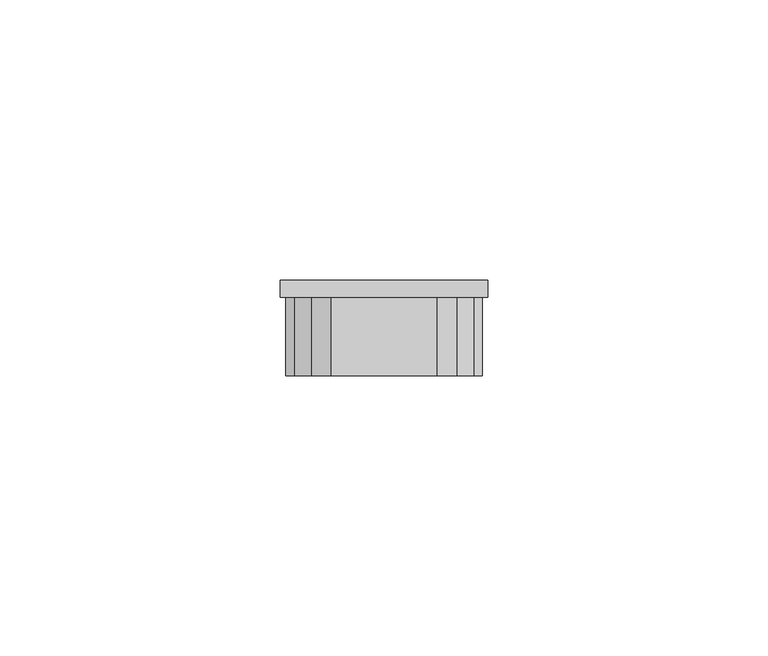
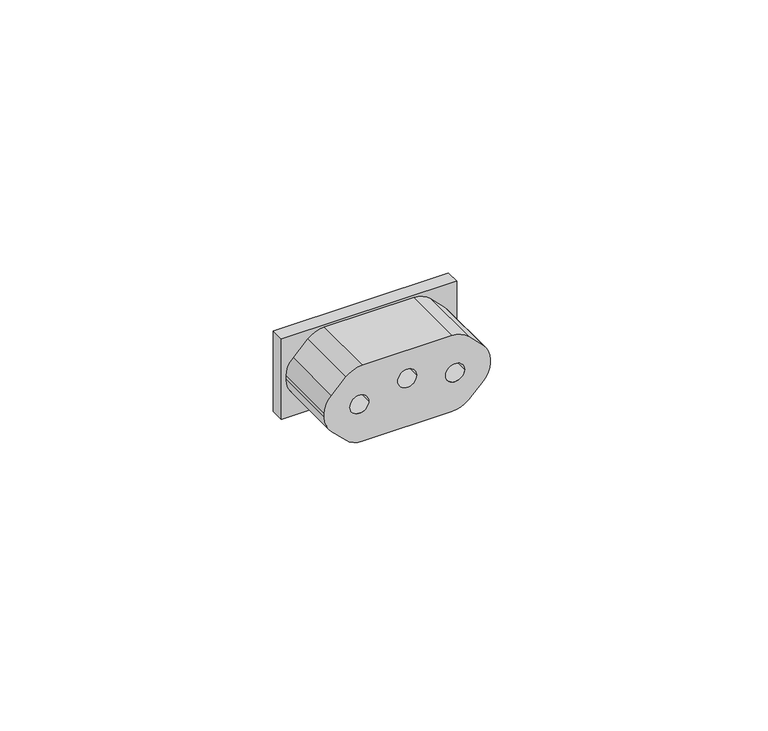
"""IFC4 building model written with IfcOpenShell, lengths in millimetres: proxy geometry, x.Módulo de Tomada não listavel 2 : x.Módulo de Tomada não listavel 2."""

from ifc_helpers import new_model, si_unit, point, frame, frame_2d, origin, place, context, project, spatial, polyline, circle_curve, trimmed, segment, composite_curve, outline, extrude, source, transform, mapped, element, save


def electrical_fixtures_7f7a4e67(model_context):
    return source(origin(), model_context, "Body", "SweptSolid", [
        extrude(outline(polyline([(18.0, -18.5), (0.0, -18.5), (0.0, 18.5), (18.0, 18.5), (18.0, -18.5)]), holes=[composite_curve([segment(trimmed(circle_curve(frame_2d((9.4289322, 12.5)), 5.0), [point((12.9644661, 16.0355339))], [point((9.4289322, 17.5))], True, "CARTESIAN"), True, "CONTINUOUS"), segment(polyline([(9.4289322, 17.5), (8.5710678, 17.5)]), True, "CONTINUOUS"), segment(trimmed(circle_curve(frame_2d((8.5710678, 12.5)), 5.0), [point((8.5710678, 17.5))], [point((5.0355339, 16.0355339))], True, "CARTESIAN"), True, "CONTINUOUS"), segment(polyline([(5.0355339, 16.0355339), (1.9644661, 12.9644661)]), True, "CONTINUOUS"), segment(trimmed(circle_curve(frame_2d((5.5, 9.4289322)), 5.0), [point((1.9644661, 12.9644661))], [point((0.5, 9.4289322))], True, "CARTESIAN"), True, "CONTINUOUS"), segment(polyline([(0.5, 9.4289322), (0.5, -9.4289322)]), True, "CONTINUOUS"), segment(trimmed(circle_curve(frame_2d((5.5, -9.4289322)), 5.0), [point((0.5, -9.4289322))], [point((1.9644661, -12.9644661))], True, "CARTESIAN"), True, "CONTINUOUS"), segment(polyline([(1.9644661, -12.9644661), (5.0355339, -16.0355339)]), True, "CONTINUOUS"), segment(trimmed(circle_curve(frame_2d((8.5710678, -12.5)), 5.0), [point((5.0355339, -16.0355339))], [point((8.5710678, -17.5))], True, "CARTESIAN"), True, "CONTINUOUS"), segment(polyline([(8.5710678, -17.5), (9.4289322, -17.5)]), True, "CONTINUOUS"), segment(trimmed(circle_curve(frame_2d((9.4289322, -12.5)), 5.0), [point((9.4289322, -17.5))], [point((12.9644661, -16.0355339))], True, "CARTESIAN"), True, "CONTINUOUS"), segment(polyline([(12.9644661, -16.0355339), (16.0355339, -12.9644661)]), True, "CONTINUOUS"), segment(trimmed(circle_curve(frame_2d((12.5, -9.4289322)), 5.0), [point((16.0355339, -12.9644661))], [point((17.5, -9.4289322))], True, "CARTESIAN"), True, "CONTINUOUS"), segment(polyline([(17.5, -9.4289322), (17.5, 9.4289322)]), True, "CONTINUOUS"), segment(trimmed(circle_curve(frame_2d((12.5, 9.4289322)), 5.0), [point((17.5, 9.4289322))], [point((16.0355339, 12.9644661))], True, "CARTESIAN"), True, "CONTINUOUS"), segment(polyline([(16.0355339, 12.9644661), (12.9644661, 16.0355339)]), True, "CONTINUOUS")], self_intersect=False)]), frame((0.0, 2.625, 0.0), z_axis=(0.0, 1.0, 0.0), x_axis=(0.0, 0.0, 1.0)), (0.0, 0.0, 1.0), 3.0),
        extrude(outline(composite_curve([segment(trimmed(circle_curve(frame_2d((12.5, -9.4289322)), 5.0), [point((17.5, -9.4289322))], [point((16.0355339, -12.9644661))], False, "CARTESIAN"), True, "CONTINUOUS"), segment(polyline([(16.0355339, -12.9644661), (12.9644661, -16.0355339)]), True, "CONTINUOUS"), segment(trimmed(circle_curve(frame_2d((9.4289322, -12.5)), 5.0), [point((12.9644661, -16.0355339))], [point((9.4289322, -17.5))], False, "CARTESIAN"), True, "CONTINUOUS"), segment(polyline([(9.4289322, -17.5), (8.5710678, -17.5)]), True, "CONTINUOUS"), segment(trimmed(circle_curve(frame_2d((8.5710678, -12.5)), 5.0), [point((8.5710678, -17.5))], [point((5.0355339, -16.0355339))], False, "CARTESIAN"), True, "CONTINUOUS"), segment(polyline([(5.0355339, -16.0355339), (1.9644661, -12.9644661)]), True, "CONTINUOUS"), segment(trimmed(circle_curve(frame_2d((5.5, -9.4289322)), 5.0), [point((1.9644661, -12.9644661))], [point((0.5, -9.4289322))], False, "CARTESIAN"), True, "CONTINUOUS"), segment(polyline([(0.5, -9.4289322), (0.5, 9.4289322)]), True, "CONTINUOUS"), segment(trimmed(circle_curve(frame_2d((5.5, 9.4289322)), 5.0), [point((0.5, 9.4289322))], [point((1.9644661, 12.9644661))], False, "CARTESIAN"), True, "CONTINUOUS"), segment(polyline([(1.9644661, 12.9644661), (5.0355339, 16.0355339)]), True, "CONTINUOUS"), segment(trimmed(circle_curve(frame_2d((8.5710678, 12.5)), 5.0), [point((5.0355339, 16.0355339))], [point((8.5710678, 17.5))], False, "CARTESIAN"), True, "CONTINUOUS"), segment(polyline([(8.5710678, 17.5), (9.4289322, 17.5)]), True, "CONTINUOUS"), segment(trimmed(circle_curve(frame_2d((9.4289322, 12.5)), 5.0), [point((9.4289322, 17.5))], [point((12.9644661, 16.0355339))], False, "CARTESIAN"), True, "CONTINUOUS"), segment(polyline([(12.9644661, 16.0355339), (16.0355339, 12.9644661)]), True, "CONTINUOUS"), segment(trimmed(circle_curve(frame_2d((12.5, 9.4289322)), 5.0), [point((16.0355339, 12.9644661))], [point((17.5, 9.4289322))], False, "CARTESIAN"), True, "CONTINUOUS"), segment(polyline([(17.5, 9.4289322), (17.5, -9.4289322)]), True, "CONTINUOUS")], self_intersect=False), holes=[composite_curve([segment(trimmed(circle_curve(frame_2d((9.0, -10.125)), 2.0), [point((9.0, -8.125))], [point((9.0, -12.125))], True, "CARTESIAN"), True, "CONTINUOUS"), segment(trimmed(circle_curve(frame_2d((9.0, -10.125)), 2.0), [point((9.0, -12.125))], [point((9.0, -8.125))], True, "CARTESIAN"), True, "CONTINUOUS")], self_intersect=False), composite_curve([segment(trimmed(circle_curve(frame_2d((11.2727768, 0.0)), 2.0), [point((11.2727768, 2.0))], [point((11.2727768, -2.0))], True, "CARTESIAN"), True, "CONTINUOUS"), segment(trimmed(circle_curve(frame_2d((11.2727768, 0.0)), 2.0), [point((11.2727768, -2.0))], [point((11.2727768, 2.0))], True, "CARTESIAN"), True, "CONTINUOUS")], self_intersect=False), composite_curve([segment(trimmed(circle_curve(frame_2d((9.0, 10.125)), 2.0), [point((9.0, 12.125))], [point((9.0, 8.125))], True, "CARTESIAN"), True, "CONTINUOUS"), segment(trimmed(circle_curve(frame_2d((9.0, 10.125)), 2.0), [point((9.0, 8.125))], [point((9.0, 12.125))], True, "CARTESIAN"), True, "CONTINUOUS")], self_intersect=False)]), frame((0.0, -11.375, 0.0), z_axis=(0.0, 1.0, 0.0), x_axis=(0.0, 0.0, 1.0)), (0.0, 0.0, 1.0), 14.0231104),
    ])


if __name__ == "__main__":
    model = new_model("IFC4")
    model_context = context("Model", 3, world=origin())
    ifc_project = project(units=[si_unit("LENGTHUNIT", "METRE", prefix="MILLI")], contexts=[model_context])
    site = spatial("IfcSite", under=ifc_project)
    building = spatial("IfcBuilding", under=site)
    placement = place(None, origin())
    electrical_fixtures_shape = electrical_fixtures_7f7a4e67(model_context)
    element("IfcBuildingElementProxy", 1, Name="x.Módulo de Tomada não listavel 2 : x.Módulo de Tomada não listavel 2", ObjectType="x.Módulo de Tomada não listavel 2 : x.Módulo de Tomada não listavel 2", at=placement, inside=building, context=model_context, shape_type="MappedRepresentation", body=[
        mapped(electrical_fixtures_shape, transform((0.0, 0.0, 0.0), x_axis=(1.0, 0.0, 0.0), y_axis=(0.0, 1.0, 0.0), z_axis=(0.0, 0.0, 1.0))),
    ])
    save(model, "model.ifc")
